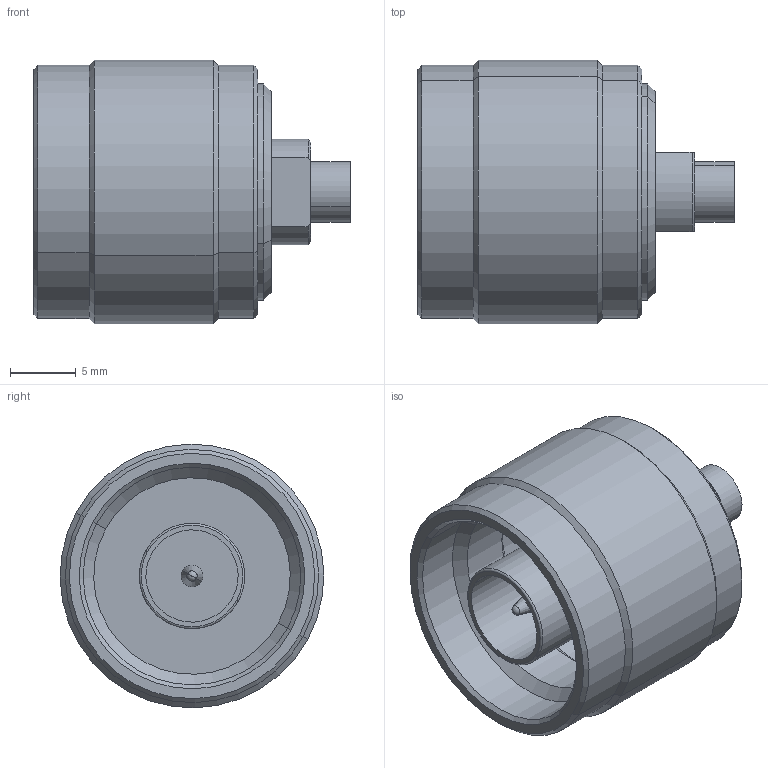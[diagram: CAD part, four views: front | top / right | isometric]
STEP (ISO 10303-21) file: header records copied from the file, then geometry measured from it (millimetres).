
FILE_DESCRIPTION(('CATIA V5 STEP Exchange'),'2;1');
FILE_NAME('F:\Work SZ\CMP 图纸\N\001 N-JH14\50-03-2M06-001.stp','2011-10-22T07:16:25+00:00',('none'),('none'),'CATIA Version 5 Release 17 (IN-10)','CATIA V5 STEP AP203','none');
FILE_SCHEMA(('CONFIG_CONTROL_DESIGN'));
Length unit declared in the file: millimetre
Products named in the file (1): 50-03-2M06-001
Bounding box: 24 x 19.99 x 19.99 mm (x, y, z)
Volume: 3529.7 mm3; surface area: 2873.8 mm2
Topology: 1 solids, 1 shells, 66 faces, 136 edges, 79 vertices
Faces by surface type: cylinder 26, cone 24, plane 12, sphere 2, torus 2
Entity records: 1561 total; most frequent: ORIENTED_EDGE 268, CARTESIAN_POINT 265, DIRECTION 208, EDGE_CURVE 134, AXIS2_PLACEMENT_3D 116, VERTEX_POINT 79, CIRCLE 76, EDGE_LOOP 75
